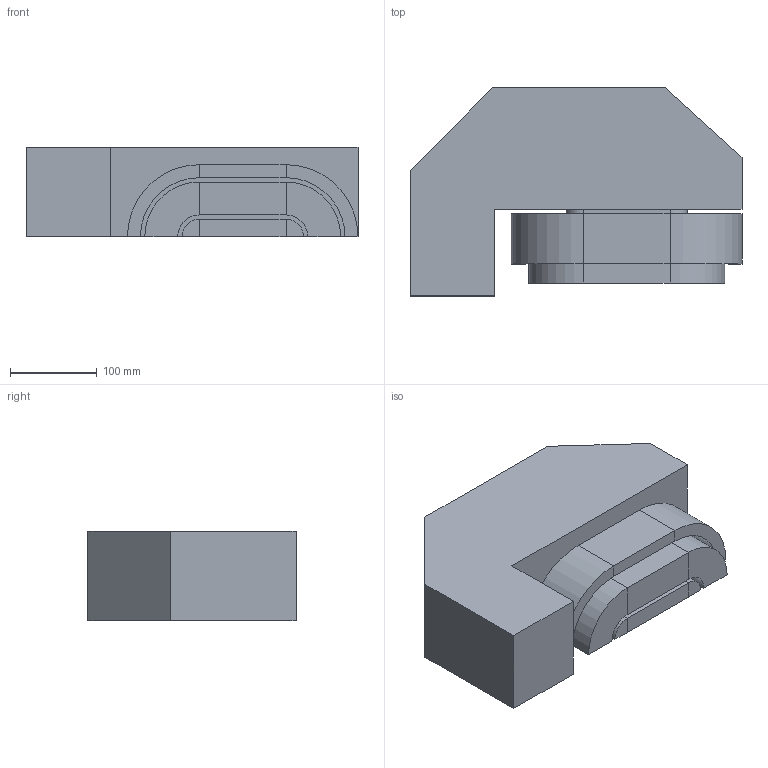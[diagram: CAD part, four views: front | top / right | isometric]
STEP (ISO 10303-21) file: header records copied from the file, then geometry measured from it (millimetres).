
FILE_DESCRIPTION(('STEP AP214'),'1');
FILE_NAME('Superbend_Sirius_MT27_ConcentricCoils_step.step','2021-11-03T14:11:47',(' '),(' '),'Spatial InterOp 3D',' ',' ');
FILE_SCHEMA(('AUTOMOTIVE_DESIGN { 1 0 10303 214 1 1 1 1 }'));
Length unit declared in the file: millimetre
Products named in the file (1): BodyYoke
Bounding box: 383 x 240 x 103 mm (x, y, z)
Volume: 6935594.5 mm3; surface area: 394836.1 mm2
Topology: 10 solids, 10 shells, 62 faces, 126 edges, 84 vertices
Faces by surface type: plane 52, cylinder 10
Entity records: 1661 total; most frequent: DIRECTION 290, CARTESIAN_POINT 282, ORIENTED_EDGE 252, EDGE_CURVE 126, LINE 106, VECTOR 106, AXIS2_PLACEMENT_3D 92, VERTEX_POINT 84
